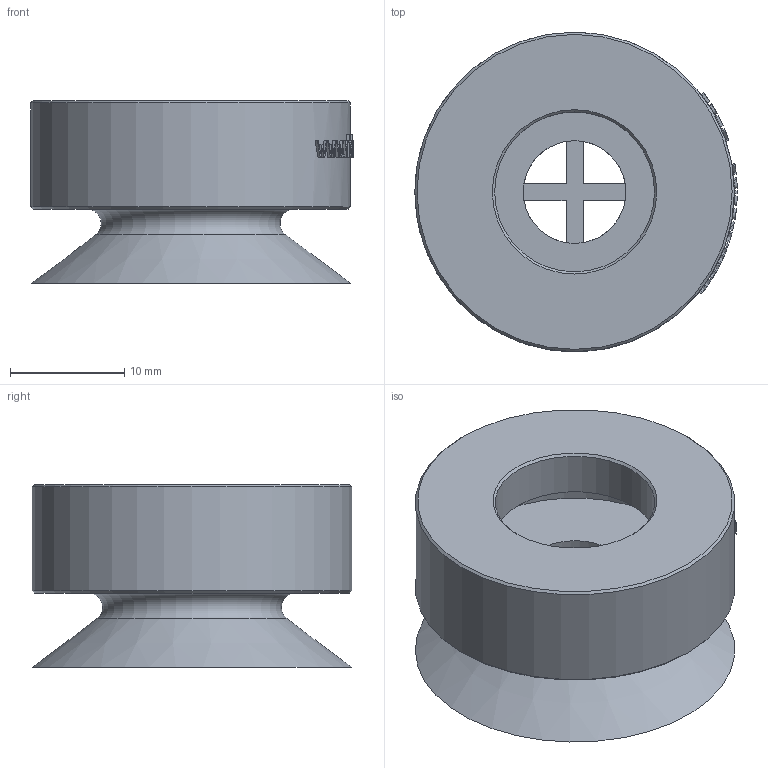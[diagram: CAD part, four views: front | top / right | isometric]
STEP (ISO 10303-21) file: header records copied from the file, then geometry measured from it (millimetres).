
FILE_DESCRIPTION( ( 'STEP AP203' ), '1' );
FILE_NAME( 'C:/撲啗紫賊-02/3D-蘋驍煎斜/Vacuum Pad/KPS series/KPS-5.stp', '2006-04-24T11:00:05', ( ' ' ), ( ' ' ), 'XStep 1.0', ' ', ' ' );
FILE_SCHEMA( ( 'CONFIG_CONTROL_DESIGN) ( )' ) );
Length unit declared in the file: metre
Products named in the file (1): 1
Bounding box: 28.25 x 28 x 16 mm (x, y, z)
Volume: 4631.8 mm3; surface area: 4304.9 mm2
Topology: 1 solids, 1 shells, 192 faces, 508 edges, 335 vertices
Faces by surface type: plane 94, bspline 66, cylinder 26, cone 5, torus 1
Full cylindrical faces by diameter (mm): 9 x1, 14 x1, 22 x1, 28 x1
Entity records: 9193 total; most frequent: CARTESIAN_POINT 4898, ORIENTED_EDGE 982, DIRECTION 675, EDGE_CURVE 491, VERTEX_POINT 329, AXIS2_PLACEMENT_3D 236, EDGE_LOOP 228, LINE 203
